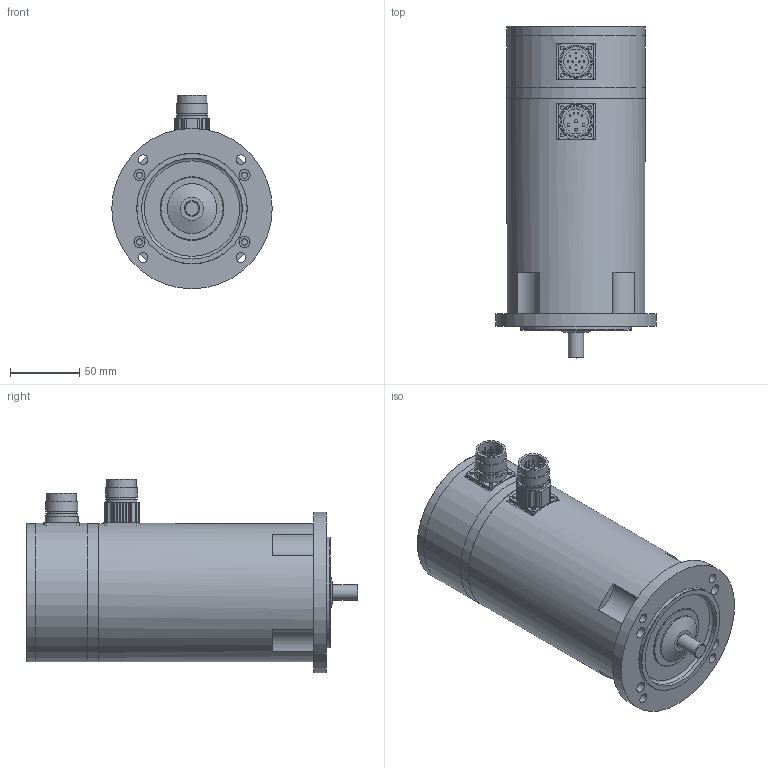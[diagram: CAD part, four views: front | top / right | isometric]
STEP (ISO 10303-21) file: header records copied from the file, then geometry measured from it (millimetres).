
FILE_DESCRIPTION(/* description */ (''),/* implementation_level */ '2;1');
FILE_NAME(/* name */ 'ksa_3x8e_ixx',/* time_stamp */ '2007-03-13T10:34:55+01:00',/* author */ (''),/* organization */ (''),/* preprocessor_version */ 'ST-DEVELOPER v8',/* originating_system */ 'UNIGRAPHICS SOLUTIONS - UNIGRAPHICS 18.0',/* authorisation */ '');
FILE_SCHEMA (('AUTOMOTIVE_DESIGN { 1 2 10303 214 0 1 1 1 }'));
Length unit declared in the file: millimetre
Products named in the file (11): 014261_0; 064304_0; 089284_0; 113058_0; 014260_0; 06331101_0; DIN3760_org_A15x30x7_0; Rotor_SA 34.. E_0; Gehaeuse SA 34.. E_0; 113044_0; KSA328_E-I27_0
Assembly tree (10 placements, depth 2):
  KSA328_E-I27_0
    113044_0
    Gehaeuse SA 34.. E_0
    Rotor_SA 34.. E_0
    DIN3760_org_A15x30x7_0
    06331101_0
    014260_0
    113058_0
    089284_0
    064304_0
    014261_0
Bounding box: 116 x 240 x 140 mm (x, y, z)
Volume: 757843 mm3; surface area: 207122.1 mm2
Topology: 10 solids, 10 shells, 267 faces, 664 edges, 426 vertices
Faces by surface type: cylinder 146, plane 76, sphere 20, torus 15, cone 10
Full cylindrical faces by diameter (mm): 1 x16, 2 x4, 2.7 x8, 4.5 x4, 7 x4, 8 x4, 10.52 x1, 10.9 x1, 11 x1, 15 x2, 15.5 x1, 18 x2, 20 x4, 21 x2, 21.5 x2, 23 x4, 24 x1, 25 x1, 27 x1, 30 x3, 35 x1, 36 x1, 45 x1, 73 x1, 74 x1, 80 x2, 81 x2, 100 x4, 116 x1
Entity records: 7164 total; most frequent: DIRECTION 1340, CARTESIAN_POINT 1152, ORIENTED_EDGE 898, AXIS2_PLACEMENT_3D 615, EDGE_LOOP 470, EDGE_CURVE 449, VERTEX_POINT 359, CIRCLE 337
